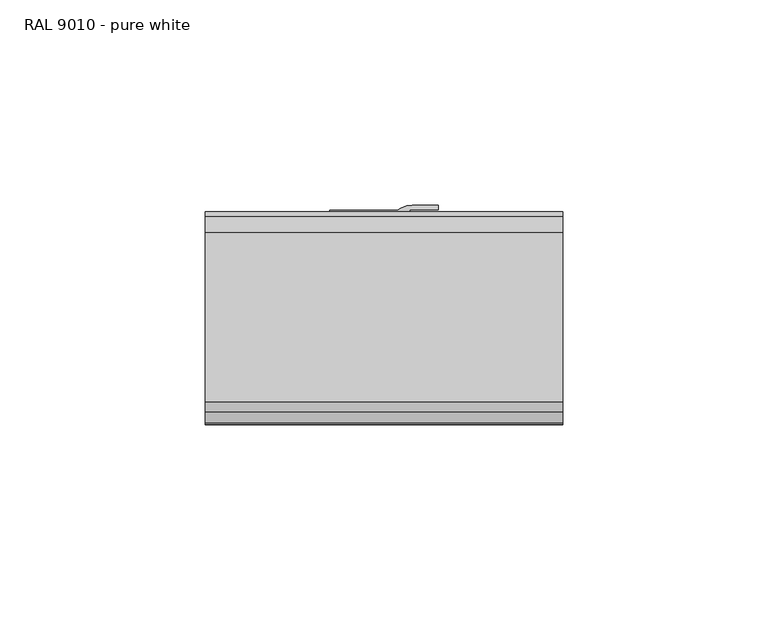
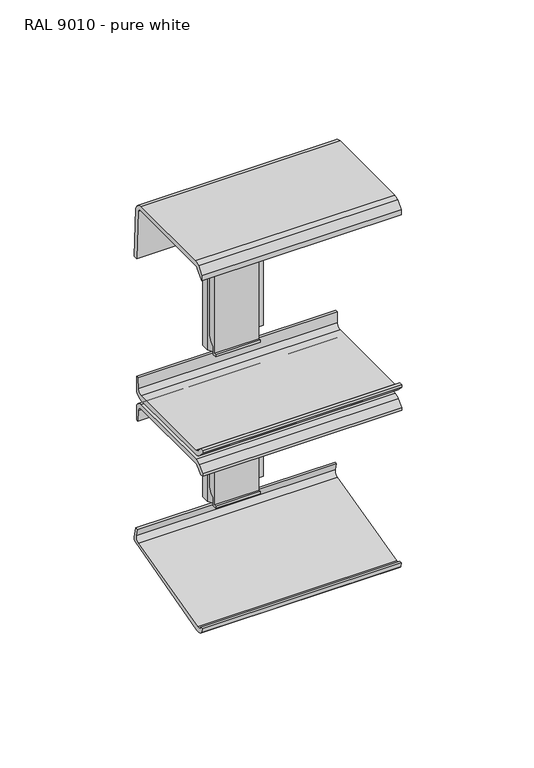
"""IFC4 building model written with IfcOpenShell, lengths in millimetres: cable carrier fitting geometry, Electrical_Installations_Hager_GBD-Joint-Cover-And-Coupling-Piece-Curved : RAL 9010 - pure white."""

from ifc_helpers import new_model, si_unit, point, frame, frame_2d, origin, place, context, project, spatial, polyline, circle_curve, trimmed, segment, composite_curve, outline, extrude, source, transform, mapped, element, save


def ral_9010_pure_white_168bbefd(model_context):
    return source(origin(), model_context, "Body", "SweptSolid", [
        extrude(outline(composite_curve([segment(polyline([(18.4940065, -19.221875), (18.4940065, -18.421875), (20.4940065, -18.421875), (20.4940065, -22.3456204)]), True, "CONTINUOUS"), segment(trimmed(circle_curve(frame_2d((17.0216088, -27.4155883)), 6.1450891), [point((20.4940065, -22.3456204))], [point((23.1502565, -26.9663694))], False, "CARTESIAN"), True, "CONTINUOUS"), segment(polyline([(23.1502565, -26.9663694), (23.1502565, -54.0515165)]), True, "CONTINUOUS"), segment(trimmed(circle_curve(frame_2d((18.0199211, -54.0515165)), 5.1303355), [point((23.1502565, -54.0515165))], [point((20.4940065, -58.5458733))], False, "CARTESIAN"), True, "CONTINUOUS"), segment(polyline([(20.4940065, -58.5458733), (20.4940065, -62.2625), (18.727375, -62.2625), (18.727375, -61.257314), (19.6940065, -61.257314), (19.6940065, -19.221875), (18.4940065, -19.221875)]), True, "CONTINUOUS")], self_intersect=False)), frame((-0.7125, 0.0, 0.0), z_axis=(1.0, 0.0, 0.0), x_axis=(0.0, 1.0, 0.0)), (0.0, 0.0, 1.0), 19.5),
        extrude(outline(composite_curve([segment(polyline([(-0.7125, 28.3502565), (15.6888516, 28.3502565)]), True, "CONTINUOUS"), segment(trimmed(circle_curve(frame_2d((19.3875, 23.2502565)), 6.3), [point((15.6888516, 28.3502565))], [point((19.3875, 29.5502565))], False, "CARTESIAN"), True, "CONTINUOUS"), segment(polyline([(19.3875, 29.5502565), (25.7875, 29.5502565), (25.7875, 28.5502565), (18.7875, 28.5502565), (18.7875, 25.0502565), (17.5173294, 22.8502565), (16.234474, 22.8502565), (16.234474, 25.0502565), (1.791584, 25.0502565), (1.791584, 22.8502565), (0.5576706, 22.8502565), (-0.7125, 25.0502565), (-0.7125, 28.3502565)]), True, "CONTINUOUS")], self_intersect=False)), frame((0.0, 0.0, -62.8), z_axis=(0.0, 0.0, 1.0), x_axis=(1.0, 0.0, 0.0)), (0.0, 0.0, 1.0), 45.0),
        extrude(outline(composite_curve([segment(polyline([(18.4705289, 50.778125), (18.4705289, 51.578125), (20.4705289, 51.578125), (20.4705289, 47.6543796)]), True, "CONTINUOUS"), segment(trimmed(circle_curve(frame_2d((16.9981311, 42.5844117)), 6.1450891), [point((20.4705289, 47.6543796))], [point((23.1267789, 43.0336306))], False, "CARTESIAN"), True, "CONTINUOUS"), segment(polyline([(23.1267789, 43.0336306), (23.1267789, 15.9484835)]), True, "CONTINUOUS"), segment(trimmed(circle_curve(frame_2d((17.9964434, 15.9484835)), 5.1303355), [point((23.1267789, 15.9484835))], [point((20.4705289, 11.4541267))], False, "CARTESIAN"), True, "CONTINUOUS"), segment(polyline([(20.4705289, 11.4541267), (20.4705289, 7.7375), (18.7038973, 7.7375), (18.7038973, 8.742686), (19.6705289, 8.742686), (19.6705289, 50.778125), (18.4705289, 50.778125)]), True, "CONTINUOUS")], self_intersect=False)), frame((-0.7125, 0.0, 0.0), z_axis=(1.0, 0.0, 0.0), x_axis=(0.0, 1.0, 0.0)), (0.0, 0.0, 1.0), 19.5),
        extrude(outline(composite_curve([segment(polyline([(-0.7125, 28.3267789), (15.6888516, 28.3267789)]), True, "CONTINUOUS"), segment(trimmed(circle_curve(frame_2d((19.3875, 23.2267789)), 6.3), [point((15.6888516, 28.3267789))], [point((19.3875, 29.5267789))], False, "CARTESIAN"), True, "CONTINUOUS"), segment(polyline([(19.3875, 29.5267789), (25.7875, 29.5267789), (25.7875, 28.5267789), (18.7875, 28.5267789), (18.7875, 25.0267789), (17.5173294, 22.8267789), (16.234474, 22.8267789), (16.234474, 25.0267789), (1.791584, 25.0267789), (1.791584, 22.8267789), (0.5576706, 22.8267789), (-0.7125, 25.0267789), (-0.7125, 28.3267789)]), True, "CONTINUOUS")], self_intersect=False)), frame((0.0, 0.0, 7.2), z_axis=(0.0, 0.0, 1.0), x_axis=(1.0, 0.0, 0.0)), (0.0, 0.0, 1.0), 45.0),
        extrude(outline(composite_curve([segment(trimmed(circle_curve(frame_2d((24.5286935, -69.6046265)), 2.0093664), [point((25.0148032, -71.5543061))], [point((26.4783731, -69.1185168))], True, "CARTESIAN"), True, "CONTINUOUS"), segment(polyline([(26.4783731, -69.1185168), (25.6470483, -65.7842551), (26.6314554, -65.5388148), (27.9412951, -70.4272029)]), True, "CONTINUOUS"), segment(trimmed(circle_curve(frame_2d((26.4735542, -70.8204829)), 1.5195171), [point((27.9412951, -70.4272029))], [point((26.8668342, -72.2882237))], False, "CARTESIAN"), True, "CONTINUOUS"), segment(polyline([(26.8668342, -72.2882237), (-19.6149672, -84.7429849)]), True, "CONTINUOUS"), segment(trimmed(circle_curve(frame_2d((-20.5632704, -81.2038694)), 3.663962), [point((-19.6149672, -84.7429849))], [point((-23.3284976, -83.6076447))], False, "CARTESIAN"), True, "CONTINUOUS"), segment(polyline([(-23.3284976, -83.6076447), (-23.4987367, -81.661802), (-22.5400418, -81.661802)]), True, "CONTINUOUS"), segment(trimmed(circle_curve(frame_2d((-20.6162474, -80.7270695)), 2.1388571), [point((-22.5400418, -81.661802))], [point((-20.098811, -82.8023934))], True, "CARTESIAN"), True, "CONTINUOUS"), segment(polyline([(-20.098811, -82.8023934), (25.0148032, -71.5543061)]), True, "CONTINUOUS")], self_intersect=False)), frame((-31.0, 0.0, 0.0), z_axis=(1.0, 0.0, 0.0), x_axis=(0.0, 1.0, 0.0)), (0.0, 0.0, 1.0), 87.0430563),
        extrude(outline(composite_curve([segment(polyline([(25.0850489, -15.2068581), (24.8234038, -10.214373)]), True, "CONTINUOUS"), segment(trimmed(circle_curve(frame_2d((22.721069, -10.3245517)), 2.10522), [point((24.8234038, -10.214373))], [point((22.721069, -8.2193317))], True, "CARTESIAN"), True, "CONTINUOUS"), segment(polyline([(22.721069, -8.2193317), (-18.6547956, -8.2193317)]), True, "CONTINUOUS"), segment(trimmed(circle_curve(frame_2d((-18.6547956, -10.245658)), 2.0263263), [point((-18.6547956, -8.2193317))], [point((-20.2070516, -8.9431606))], True, "CARTESIAN"), True, "CONTINUOUS"), segment(polyline([(-20.2070516, -8.9431606), (-22.3953547, -11.1314638), (-23.8185316, -11.1314638), (-23.8185316, -9.8685697), (-21.212391, -7.2624292)]), True, "CONTINUOUS"), segment(trimmed(circle_curve(frame_2d((-18.5798759, -9.8949442)), 3.7229385), [point((-21.212391, -7.2624292))], [point((-18.9043514, -6.1861726))], False, "CARTESIAN"), True, "CONTINUOUS"), segment(polyline([(-18.9043514, -6.1861726), (22.8071109, -6.1861726)]), True, "CONTINUOUS"), segment(trimmed(circle_curve(frame_2d((22.8071109, -9.5795181)), 3.3933455), [point((22.8071109, -6.1861726))], [point((25.9159188, -8.2193317))], False, "CARTESIAN"), True, "CONTINUOUS"), segment(polyline([(25.9159188, -8.2193317), (26.157965, -15.150629), (25.0850489, -15.2068581)]), True, "CONTINUOUS")], self_intersect=False)), frame((-31.0, 0.0, 0.0), z_axis=(1.0, 0.0, 0.0), x_axis=(0.0, 1.0, 0.0)), (0.0, 0.0, 1.0), 87.0430563),
        extrude(outline(composite_curve([segment(polyline([(25.0850489, 4.8961736), (26.157965, 4.8399444), (25.9159188, -2.0913528)]), True, "CONTINUOUS"), segment(trimmed(circle_curve(frame_2d((22.8071109, -0.7311664)), 3.3933455), [point((25.9159188, -2.0913528))], [point((22.8071109, -4.1245119))], False, "CARTESIAN"), True, "CONTINUOUS"), segment(polyline([(22.8071109, -4.1245119), (-18.9043514, -4.1245119)]), True, "CONTINUOUS"), segment(trimmed(circle_curve(frame_2d((-18.5798759, -0.4157403)), 3.7229385), [point((-18.9043514, -4.1245119))], [point((-21.212391, -3.0482554))], False, "CARTESIAN"), True, "CONTINUOUS"), segment(polyline([(-21.212391, -3.0482554), (-23.8185316, -0.4421148), (-23.8185316, 0.8207792), (-22.3953547, 0.8207792), (-20.2070516, -1.367524)]), True, "CONTINUOUS"), segment(trimmed(circle_curve(frame_2d((-18.6547956, -0.0650266)), 2.0263263), [point((-20.2070516, -1.367524))], [point((-18.6547956, -2.0913528))], True, "CARTESIAN"), True, "CONTINUOUS"), segment(polyline([(-18.6547956, -2.0913528), (22.721069, -2.0913528)]), True, "CONTINUOUS"), segment(trimmed(circle_curve(frame_2d((22.721069, 0.0138672)), 2.10522), [point((22.721069, -2.0913528))], [point((24.8234038, -0.0963115))], True, "CARTESIAN"), True, "CONTINUOUS"), segment(polyline([(24.8234038, -0.0963115), (25.0850489, 4.8961736)]), True, "CONTINUOUS")], self_intersect=False)), frame((-31.0, 0.0, 0.0), z_axis=(1.0, 0.0, 0.0), x_axis=(0.0, 1.0, 0.0)), (0.0, 0.0, 1.0), 87.0430563),
        extrude(outline(composite_curve([segment(trimmed(circle_curve(frame_2d((23.275131, 81.846114)), 1.5144864), [point((24.7875419, 81.9253761))], [point((22.5875686, 83.1955313))], True, "CARTESIAN"), True, "CONTINUOUS"), segment(polyline([(22.5875686, 83.1955313), (-18.3526679, 83.1955313)]), True, "CONTINUOUS"), segment(trimmed(circle_curve(frame_2d((-18.3526679, 81.169205)), 2.0263263), [point((-18.3526679, 83.1955313))], [point((-19.9049239, 82.4717025))], True, "CARTESIAN"), True, "CONTINUOUS"), segment(polyline([(-19.9049239, 82.4717025), (-23.381095, 78.9955313), (-23.381095, 81.3868889), (-20.8155735, 84.3381838)]), True, "CONTINUOUS"), segment(trimmed(circle_curve(frame_2d((-18.3834957, 81.3206794)), 3.8756077), [point((-20.8155735, 84.3381838))], [point((-18.4600305, 85.1955313))], False, "CARTESIAN"), True, "CONTINUOUS"), segment(polyline([(-18.4600305, 85.1955313), (22.8230467, 85.1955313)]), True, "CONTINUOUS"), segment(trimmed(circle_curve(frame_2d((22.8230467, 81.1348582)), 4.0606731), [point((22.8230467, 85.1955313))], [point((26.7631005, 82.1172239))], False, "CARTESIAN"), True, "CONTINUOUS"), segment(polyline([(26.7631005, 82.1172239), (27.9631502, 59.2189116), (25.9775372, 59.2189116), (24.7875419, 81.9253761)]), True, "CONTINUOUS")], self_intersect=False)), frame((-31.0, 0.0, 0.0), z_axis=(1.0, 0.0, 0.0), x_axis=(0.0, 1.0, 0.0)), (0.0, 0.0, 1.0), 87.0430563),
    ])


if __name__ == "__main__":
    model = new_model("IFC4")
    model_context = context("Model", 3, world=origin())
    ifc_project = project(units=[si_unit("LENGTHUNIT", "METRE", prefix="MILLI")], contexts=[model_context])
    site = spatial("IfcSite", under=ifc_project)
    building = spatial("IfcBuilding", under=site)
    placement = place(None, origin())
    ral_9010_pure_white_shape = ral_9010_pure_white_168bbefd(model_context)
    element("IfcCableCarrierFitting", 1, ObjectType="Electrical_Installations_Hager_GBD-Joint-Cover-And-Coupling-Piece-Curved : RAL 9010 - pure white", at=placement, inside=building, context=model_context, shape_type="MappedRepresentation", body=[
        mapped(ral_9010_pure_white_shape, transform((0.0, 0.0, 0.0), x_axis=(1.0, 0.0, 0.0), y_axis=(0.0, 1.0, 0.0), z_axis=(0.0, 0.0, 1.0))),
    ])
    save(model, "model.ifc")
